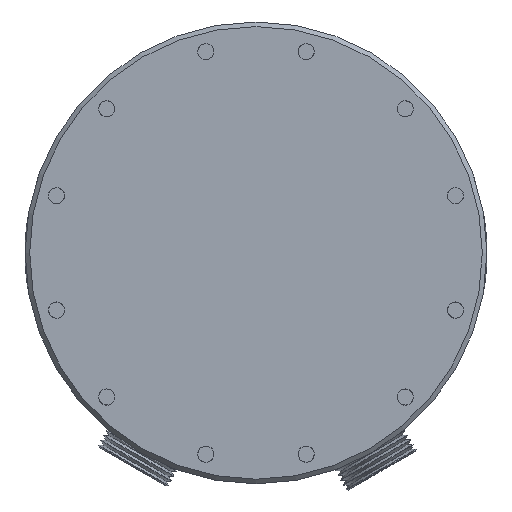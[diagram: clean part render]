
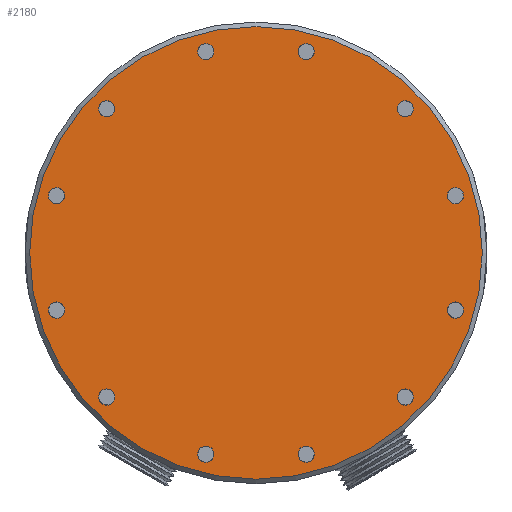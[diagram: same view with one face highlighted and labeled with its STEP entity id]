
A CAD part, front view. The second image highlights one B-rep face of the part: STEP entity #2180.
In plain terms, the highlighted planar face has unit normal (0, -1, 0) as drawn and (0, 0, 1) by its records, which use the part's own axes.
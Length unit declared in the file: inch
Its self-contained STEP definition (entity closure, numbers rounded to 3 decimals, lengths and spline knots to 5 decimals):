
#295=PLANE('',#2377);
#417=FACE_BOUND('',#778,.T.);
#418=FACE_BOUND('',#779,.T.);
#419=FACE_BOUND('',#780,.T.);
#420=FACE_BOUND('',#781,.T.);
#421=FACE_BOUND('',#782,.T.);
#422=FACE_BOUND('',#783,.T.);
#423=FACE_BOUND('',#784,.T.);
#424=FACE_BOUND('',#785,.T.);
#425=FACE_BOUND('',#786,.T.);
#426=FACE_BOUND('',#787,.T.);
#427=FACE_BOUND('',#788,.T.);
#428=FACE_BOUND('',#789,.T.);
#594=FACE_OUTER_BOUND('',#777,.T.);
#777=EDGE_LOOP('',(#1752));
#778=EDGE_LOOP('',(#1753));
#779=EDGE_LOOP('',(#1754));
#780=EDGE_LOOP('',(#1755));
#781=EDGE_LOOP('',(#1756));
#782=EDGE_LOOP('',(#1757));
#783=EDGE_LOOP('',(#1758));
#784=EDGE_LOOP('',(#1759));
#785=EDGE_LOOP('',(#1760));
#786=EDGE_LOOP('',(#1761));
#787=EDGE_LOOP('',(#1762));
#788=EDGE_LOOP('',(#1763));
#789=EDGE_LOOP('',(#1764));
#1093=CIRCLE('',#2373,2.94);
#1096=CIRCLE('',#2378,0.1055);
#1097=CIRCLE('',#2379,0.1055);
#1098=CIRCLE('',#2380,0.1055);
#1099=CIRCLE('',#2381,0.1055);
#1100=CIRCLE('',#2382,0.1055);
#1101=CIRCLE('',#2383,0.1055);
#1102=CIRCLE('',#2384,0.1055);
#1103=CIRCLE('',#2385,0.1055);
#1104=CIRCLE('',#2386,0.1055);
#1105=CIRCLE('',#2387,0.1055);
#1106=CIRCLE('',#2388,0.1055);
#1107=CIRCLE('',#2389,0.1055);
#1270=VERTEX_POINT('',#3640);
#1275=VERTEX_POINT('',#3687);
#1276=VERTEX_POINT('',#3689);
#1277=VERTEX_POINT('',#3691);
#1278=VERTEX_POINT('',#3693);
#1279=VERTEX_POINT('',#3695);
#1280=VERTEX_POINT('',#3697);
#1281=VERTEX_POINT('',#3699);
#1282=VERTEX_POINT('',#3701);
#1283=VERTEX_POINT('',#3703);
#1284=VERTEX_POINT('',#3705);
#1285=VERTEX_POINT('',#3707);
#1286=VERTEX_POINT('',#3709);
#1480=EDGE_CURVE('',#1270,#1270,#1093,.T.);
#1485=EDGE_CURVE('',#1275,#1275,#1096,.T.);
#1486=EDGE_CURVE('',#1276,#1276,#1097,.T.);
#1487=EDGE_CURVE('',#1277,#1277,#1098,.T.);
#1488=EDGE_CURVE('',#1278,#1278,#1099,.T.);
#1489=EDGE_CURVE('',#1279,#1279,#1100,.T.);
#1490=EDGE_CURVE('',#1280,#1280,#1101,.T.);
#1491=EDGE_CURVE('',#1281,#1281,#1102,.T.);
#1492=EDGE_CURVE('',#1282,#1282,#1103,.T.);
#1493=EDGE_CURVE('',#1283,#1283,#1104,.T.);
#1494=EDGE_CURVE('',#1284,#1284,#1105,.T.);
#1495=EDGE_CURVE('',#1285,#1285,#1106,.T.);
#1496=EDGE_CURVE('',#1286,#1286,#1107,.T.);
#1752=ORIENTED_EDGE('',*,*,#1480,.F.);
#1753=ORIENTED_EDGE('',*,*,#1485,.T.);
#1754=ORIENTED_EDGE('',*,*,#1486,.T.);
#1755=ORIENTED_EDGE('',*,*,#1487,.T.);
#1756=ORIENTED_EDGE('',*,*,#1488,.T.);
#1757=ORIENTED_EDGE('',*,*,#1489,.T.);
#1758=ORIENTED_EDGE('',*,*,#1490,.T.);
#1759=ORIENTED_EDGE('',*,*,#1491,.T.);
#1760=ORIENTED_EDGE('',*,*,#1492,.T.);
#1761=ORIENTED_EDGE('',*,*,#1493,.T.);
#1762=ORIENTED_EDGE('',*,*,#1494,.T.);
#1763=ORIENTED_EDGE('',*,*,#1495,.T.);
#1764=ORIENTED_EDGE('',*,*,#1496,.T.);
#2180=ADVANCED_FACE('',(#594,#417,#418,#419,#420,#421,#422,#423,#424,#425,
#426,#427,#428),#295,.F.);
#2373=AXIS2_PLACEMENT_3D('',#3641,#2779,#2780);
#2377=AXIS2_PLACEMENT_3D('',#3686,#2787,#2788);
#2378=AXIS2_PLACEMENT_3D('',#3688,#2789,#2790);
#2379=AXIS2_PLACEMENT_3D('',#3690,#2791,#2792);
#2380=AXIS2_PLACEMENT_3D('',#3692,#2793,#2794);
#2381=AXIS2_PLACEMENT_3D('',#3694,#2795,#2796);
#2382=AXIS2_PLACEMENT_3D('',#3696,#2797,#2798);
#2383=AXIS2_PLACEMENT_3D('',#3698,#2799,#2800);
#2384=AXIS2_PLACEMENT_3D('',#3700,#2801,#2802);
#2385=AXIS2_PLACEMENT_3D('',#3702,#2803,#2804);
#2386=AXIS2_PLACEMENT_3D('',#3704,#2805,#2806);
#2387=AXIS2_PLACEMENT_3D('',#3706,#2807,#2808);
#2388=AXIS2_PLACEMENT_3D('',#3708,#2809,#2810);
#2389=AXIS2_PLACEMENT_3D('',#3710,#2811,#2812);
#2779=DIRECTION('center_axis',(0.,0.,-1.));
#2780=DIRECTION('ref_axis',(-1.,0.,0.));
#2787=DIRECTION('center_axis',(0.,0.,-1.));
#2788=DIRECTION('ref_axis',(-1.,0.,0.));
#2789=DIRECTION('center_axis',(0.,0.,-1.));
#2790=DIRECTION('ref_axis',(-1.,0.,0.));
#2791=DIRECTION('center_axis',(0.,0.,-1.));
#2792=DIRECTION('ref_axis',(-1.,0.,0.));
#2793=DIRECTION('center_axis',(0.,0.,-1.));
#2794=DIRECTION('ref_axis',(-1.,0.,0.));
#2795=DIRECTION('center_axis',(0.,0.,-1.));
#2796=DIRECTION('ref_axis',(-1.,0.,0.));
#2797=DIRECTION('center_axis',(0.,0.,-1.));
#2798=DIRECTION('ref_axis',(-1.,0.,0.));
#2799=DIRECTION('center_axis',(0.,0.,-1.));
#2800=DIRECTION('ref_axis',(-1.,0.,0.));
#2801=DIRECTION('center_axis',(0.,0.,-1.));
#2802=DIRECTION('ref_axis',(-1.,0.,0.));
#2803=DIRECTION('center_axis',(0.,0.,-1.));
#2804=DIRECTION('ref_axis',(-1.,0.,0.));
#2805=DIRECTION('center_axis',(0.,0.,-1.));
#2806=DIRECTION('ref_axis',(-1.,0.,0.));
#2807=DIRECTION('center_axis',(0.,0.,-1.));
#2808=DIRECTION('ref_axis',(-1.,0.,0.));
#2809=DIRECTION('center_axis',(0.,0.,-1.));
#2810=DIRECTION('ref_axis',(-1.,0.,0.));
#2811=DIRECTION('center_axis',(0.,0.,-1.));
#2812=DIRECTION('ref_axis',(-1.,0.,0.));
#3640=CARTESIAN_POINT('',(2.94,0.,0.7375));
#3641=CARTESIAN_POINT('Origin',(0.,0.,0.7375));
#3686=CARTESIAN_POINT('Origin',(0.,0.,0.7375));
#3687=CARTESIAN_POINT('',(-2.4851,-0.74284,0.7375));
#3688=CARTESIAN_POINT('Origin',(-2.5906,-0.74284,0.7375));
#3689=CARTESIAN_POINT('',(-1.83312,-1.8721,0.7375));
#3690=CARTESIAN_POINT('Origin',(-1.93862,-1.8721,0.7375));
#3691=CARTESIAN_POINT('',(-0.54648,-2.61495,0.7375));
#3692=CARTESIAN_POINT('Origin',(-0.65198,-2.61495,0.7375));
#3693=CARTESIAN_POINT('',(0.75748,-2.61495,0.7375));
#3694=CARTESIAN_POINT('Origin',(0.65198,-2.61495,0.7375));
#3695=CARTESIAN_POINT('',(2.04412,-1.8721,0.7375));
#3696=CARTESIAN_POINT('Origin',(1.93862,-1.8721,0.7375));
#3697=CARTESIAN_POINT('',(2.6961,-0.74284,0.7375));
#3698=CARTESIAN_POINT('Origin',(2.5906,-0.74284,0.7375));
#3699=CARTESIAN_POINT('',(2.6961,0.74284,0.7375));
#3700=CARTESIAN_POINT('Origin',(2.5906,0.74284,0.7375));
#3701=CARTESIAN_POINT('',(2.04412,1.8721,0.7375));
#3702=CARTESIAN_POINT('Origin',(1.93862,1.8721,0.7375));
#3703=CARTESIAN_POINT('',(0.75748,2.61495,0.7375));
#3704=CARTESIAN_POINT('Origin',(0.65198,2.61495,0.7375));
#3705=CARTESIAN_POINT('',(-0.54648,2.61495,0.7375));
#3706=CARTESIAN_POINT('Origin',(-0.65198,2.61495,0.7375));
#3707=CARTESIAN_POINT('',(-1.83312,1.8721,0.7375));
#3708=CARTESIAN_POINT('Origin',(-1.93862,1.8721,0.7375));
#3709=CARTESIAN_POINT('',(-2.4851,0.74284,0.7375));
#3710=CARTESIAN_POINT('Origin',(-2.5906,0.74284,0.7375));
